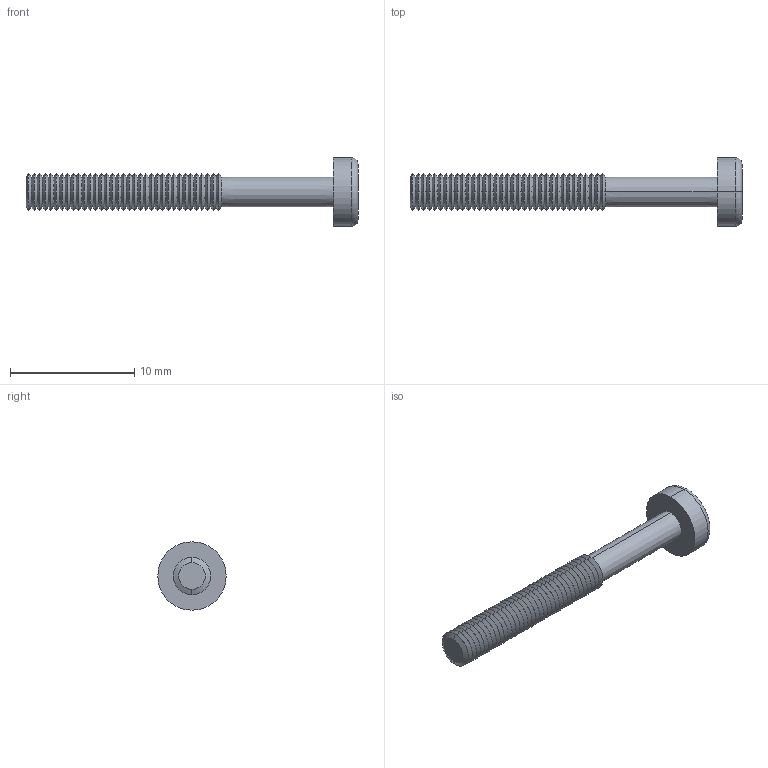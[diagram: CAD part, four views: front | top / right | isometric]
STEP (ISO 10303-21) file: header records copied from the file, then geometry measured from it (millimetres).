
FILE_DESCRIPTION (( 'STEP AP214' ), '1' );
FILE_NAME ('Cargol M 3x16 PP70.STEP', '2017-11-14T10:11:39', ( 'aaa' ), ( '' ), 'SwSTEP 2.0', 'SolidWorks 2013', '' );
FILE_SCHEMA (( 'AUTOMOTIVE_DESIGN' ));
Length unit declared in the file: millimetre
Products named in the file (1): Cargol M 3x16 PP70
Bounding box: 26.7 x 5.5 x 5.5 mm (x, y, z)
Volume: 176.8 mm3; surface area: 371.8 mm2
Topology: 1 solids, 1 shells, 162 faces, 332 edges, 174 vertices
Faces by surface type: cone 142, plane 16, torus 2, cylinder 2
Entity records: 4166 total; most frequent: DIRECTION 810, CARTESIAN_POINT 669, ORIENTED_EDGE 664, EDGE_CURVE 332, AXIS2_PLACEMENT_3D 315, VECTOR 180, LINE 180, VERTEX_POINT 174
